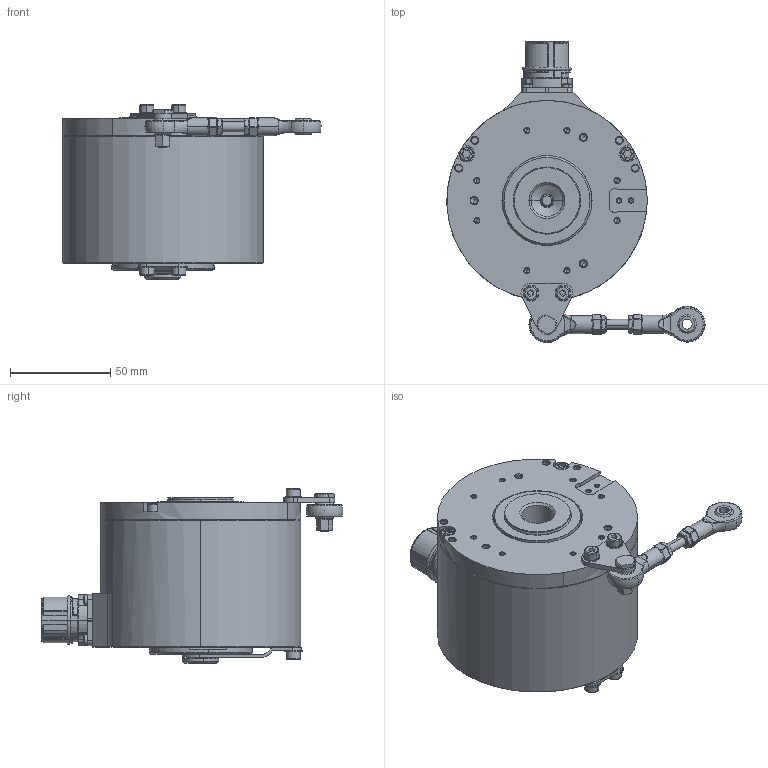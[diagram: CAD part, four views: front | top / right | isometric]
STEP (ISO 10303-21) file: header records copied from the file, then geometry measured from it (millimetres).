
FILE_DESCRIPTION (( 'STEP AP214' ), '1' );
FILE_NAME ('8.H120.2BXD.XXXX.STEP', '2014-03-31T11:53:48', ( 'LauferA' ), ( 'Microsoft' ), 'SwSTEP 2.0', 'SolidWorks 2013', '' );
FILE_SCHEMA (( 'AUTOMOTIVE_DESIGN' ));
Length unit declared in the file: millimetre
Products named in the file (1): 8.H120.2BXD.XXXX
Bounding box: 129 x 150.6 x 87 mm (x, y, z)
Volume: 350461.1 mm3; surface area: 170141.6 mm2
Topology: 51 solids, 51 shells, 2775 faces, 6773 edges, 4148 vertices
Faces by surface type: plane 1166, cylinder 943, cone 378, torus 139, bspline 79, sphere 70
Entity records: 116313 total; most frequent: CARTESIAN_POINT 20240, DIRECTION 13843, ORIENTED_EDGE 13258, EDGE_CURVE 6629, AXIS2_PLACEMENT_3D 5202, VERTEX_POINT 4136, LINE 3439, VECTOR 3439
